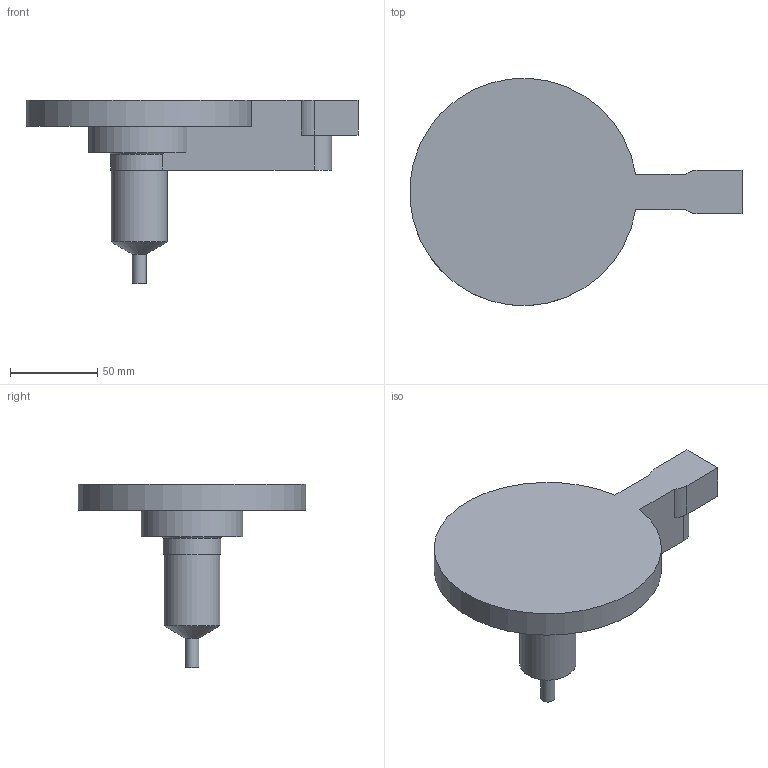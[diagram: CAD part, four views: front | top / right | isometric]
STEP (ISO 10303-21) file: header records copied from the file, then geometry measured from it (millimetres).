
FILE_DESCRIPTION( ( 'STEP AP214' ), '1' );
FILE_NAME( 'D:/PROIECTE_YUDO_2009/PROIECTE YUDO 3D/BLS/YUEU09-BLS18TLC060/YUEU09-BLS18TLC060_CutOut.step', '2009-03-24T06:59:19', ( ' ' ), ( ' ' ), 'XStep 1.0', ' ', ' ' );
FILE_SCHEMA( ( 'automotive_design' ) );
Length unit declared in the file: millimetre
Products named in the file (1): 1
Bounding box: 189.76 x 129.83 x 105 mm (x, y, z)
Volume: 348771.6 mm3; surface area: 50100.8 mm2
Topology: 1 solids, 1 shells, 21 faces, 52 edges, 34 vertices
Faces by surface type: plane 11, cylinder 8, cone 2
Full cylindrical faces by diameter (mm): 8 x1, 32 x1
Entity records: 798 total; most frequent: CARTESIAN_POINT 111, DIRECTION 108, ORIENTED_EDGE 98, EDGE_CURVE 49, AXIS2_PLACEMENT_3D 39, VERTEX_POINT 34, LINE 30, VECTOR 30
